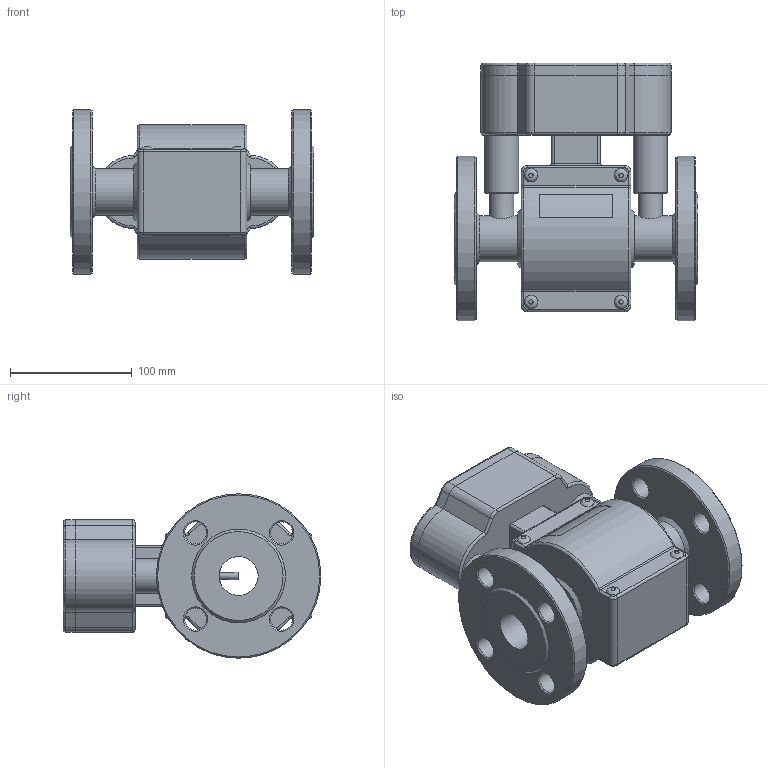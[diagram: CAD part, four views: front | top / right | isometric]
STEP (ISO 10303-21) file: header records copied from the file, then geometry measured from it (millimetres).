
FILE_DESCRIPTION(('STEP AP214'), '1');
FILE_NAME('32 È6', '2015-07-24T11:40:50', (''), (''), 'ASCON STEP Converter 1.3', 'ASCON Math Kernel', '');
FILE_SCHEMA(('AUTOMOTIVE_DESIGN { 1 0 10303 214 3 1 1}'));
Length unit declared in the file: millimetre
Products named in the file (1): 2
Bounding box: 200 x 211.5 x 135 mm (x, y, z)
Volume: 2122827.2 mm3; surface area: 231400 mm2
Topology: 2 solids, 2 shells, 495 faces, 1268 edges, 814 vertices
Faces by surface type: cylinder 248, plane 171, torus 36, cone 32, bspline 8
Full cylindrical faces by diameter (mm): 6 x1, 7 x4, 18 x8, 20 x2, 28 x2, 32 x1, 38 x2, 135 x2
Entity records: 21842 total; most frequent: CARTESIAN_POINT 5885, DIRECTION 2726, ORIENTED_EDGE 2408, EDGE_CURVE 1204, AXIS2_PLACEMENT_3D 1065, VERTEX_POINT 814, EDGE_LOOP 618, LINE 596
